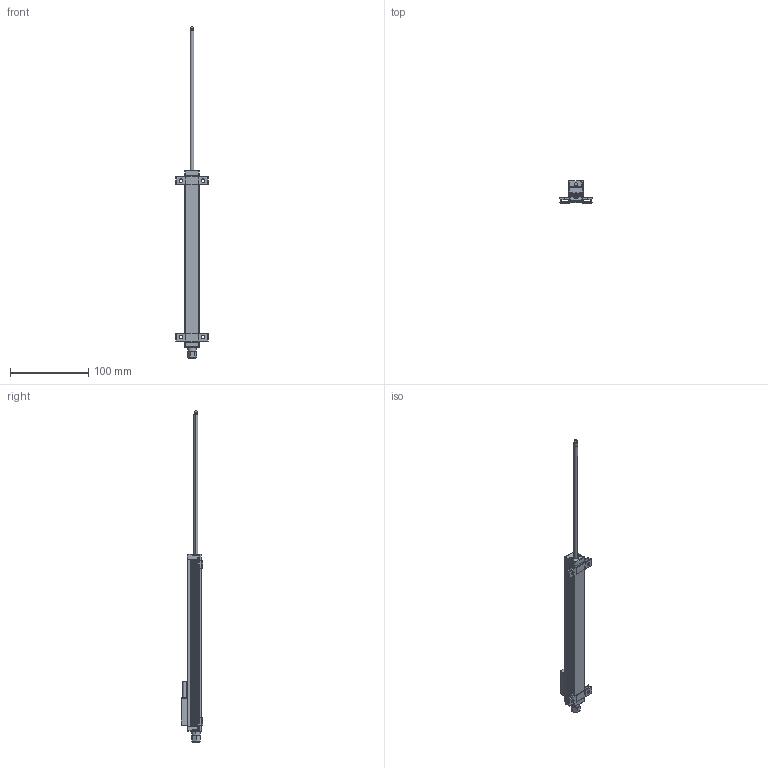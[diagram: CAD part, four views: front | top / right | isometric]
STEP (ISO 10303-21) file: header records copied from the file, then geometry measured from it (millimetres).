
FILE_DESCRIPTION (( 'STEP AP214' ), '1' );
FILE_NAME ('LTR-150 A-V Kablolu.STEP', '2020-12-16T05:26:10', ( '' ), ( '' ), 'SwSTEP 2.0', 'SolidWorks 2014', '' );
FILE_SCHEMA (( 'AUTOMOTIVE_DESIGN' ));
Length unit declared in the file: millimetre
Products named in the file (1): LTR-150 A-V Kablolu
Bounding box: 41 x 28.1 x 424.4 mm (x, y, z)
Surface area: 28216.1 mm2 (no closed solid volume)
Topology: 0 solids, 18 shells, 431 faces, 1478 edges, 1007 vertices
Faces by surface type: plane 184, cylinder 155, cone 36, sphere 32, torus 24
Entity records: 20768 total; most frequent: CARTESIAN_POINT 3308, DIRECTION 2839, ORIENTED_EDGE 2364, EDGE_CURVE 1450, AXIS2_PLACEMENT_3D 1054, VERTEX_POINT 1007, LINE 731, VECTOR 731
